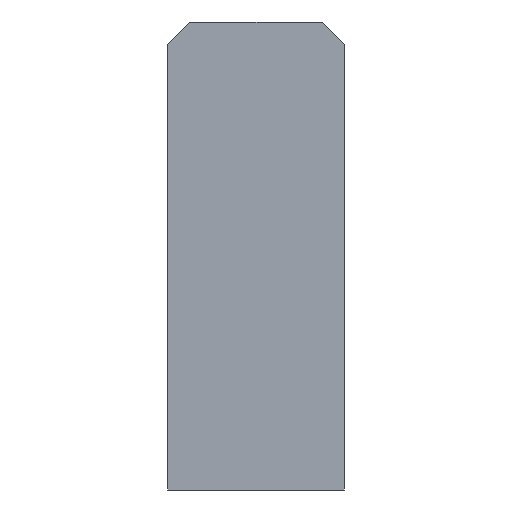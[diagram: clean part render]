
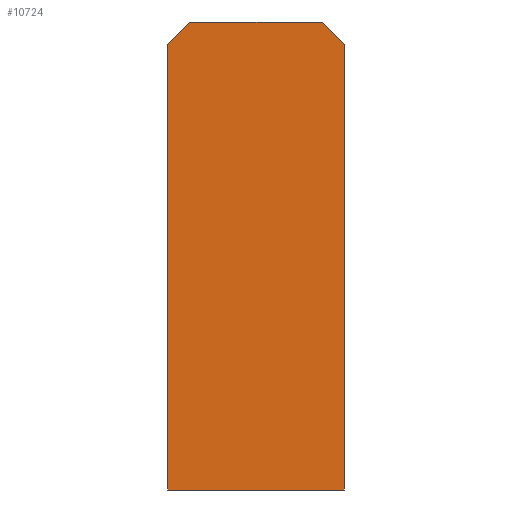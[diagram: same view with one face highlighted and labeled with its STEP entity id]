
A CAD part, left-side view. The second image highlights one B-rep face of the part: STEP entity #10724.
In plain terms, the highlighted planar face has unit normal (-1, 0, 0).
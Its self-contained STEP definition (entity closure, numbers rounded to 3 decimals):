
#236=PLANE('',#11007);
#530=LINE('',#38254,#840);
#534=LINE('',#38261,#844);
#540=LINE('',#38273,#850);
#542=LINE('',#38277,#852);
#543=LINE('',#38280,#853);
#545=LINE('',#38283,#855);
#840=VECTOR('',#11467,1.768);
#844=VECTOR('',#11473,7.5);
#850=VECTOR('',#11483,1.768);
#852=VECTOR('',#11487,25.25);
#853=VECTOR('',#11490,10.);
#855=VECTOR('',#11494,25.25);
#1645=FACE_OUTER_BOUND('',#2389,.T.);
#2389=EDGE_LOOP('',(#8162,#8163,#8164,#8165,#8166,#8167));
#4187=VERTEX_POINT('',#38251);
#4188=VERTEX_POINT('',#38253);
#4190=VERTEX_POINT('',#38259);
#4194=VERTEX_POINT('',#38271);
#4195=VERTEX_POINT('',#38275);
#4196=VERTEX_POINT('',#38279);
#5545=EDGE_CURVE('',#4187,#4188,#530,.T.);
#5549=EDGE_CURVE('',#4190,#4187,#534,.T.);
#5555=EDGE_CURVE('',#4194,#4190,#540,.T.);
#5557=EDGE_CURVE('',#4195,#4194,#542,.T.);
#5558=EDGE_CURVE('',#4196,#4195,#543,.T.);
#5560=EDGE_CURVE('',#4188,#4196,#545,.T.);
#8162=ORIENTED_EDGE('',*,*,#5545,.F.);
#8163=ORIENTED_EDGE('',*,*,#5549,.F.);
#8164=ORIENTED_EDGE('',*,*,#5555,.F.);
#8165=ORIENTED_EDGE('',*,*,#5557,.F.);
#8166=ORIENTED_EDGE('',*,*,#5558,.F.);
#8167=ORIENTED_EDGE('',*,*,#5560,.F.);
#10724=ADVANCED_FACE('',(#1645),#236,.F.);
#11007=AXIS2_PLACEMENT_3D('',#38284,#11495,#11496);
#11467=DIRECTION('',(0.,-0.707,-0.707));
#11473=DIRECTION('',(0.,-1.,0.));
#11483=DIRECTION('',(0.,-0.707,0.707));
#11487=DIRECTION('',(0.,0.,1.));
#11490=DIRECTION('',(0.,1.,0.));
#11494=DIRECTION('',(0.,0.,-1.));
#11495=DIRECTION('center_axis',(1.,0.,0.));
#11496=DIRECTION('ref_axis',(0.,-1.,0.));
#38251=CARTESIAN_POINT('',(-6.25,-3.75,0.));
#38253=CARTESIAN_POINT('',(-6.25,-5.,-1.25));
#38254=CARTESIAN_POINT('',(-6.25,-6.438,-2.688));
#38259=CARTESIAN_POINT('',(-6.25,3.75,0.));
#38261=CARTESIAN_POINT('',(-6.25,5.,0.));
#38271=CARTESIAN_POINT('',(-6.25,5.,-1.25));
#38273=CARTESIAN_POINT('',(-6.25,6.438,-2.688));
#38275=CARTESIAN_POINT('',(-6.25,5.,-26.5));
#38277=CARTESIAN_POINT('',(-6.25,5.,-26.5));
#38279=CARTESIAN_POINT('',(-6.25,-5.,-26.5));
#38280=CARTESIAN_POINT('',(-6.25,-5.,-26.5));
#38283=CARTESIAN_POINT('',(-6.25,-5.,0.));
#38284=CARTESIAN_POINT('Origin',(-6.25,0.,-13.25));
